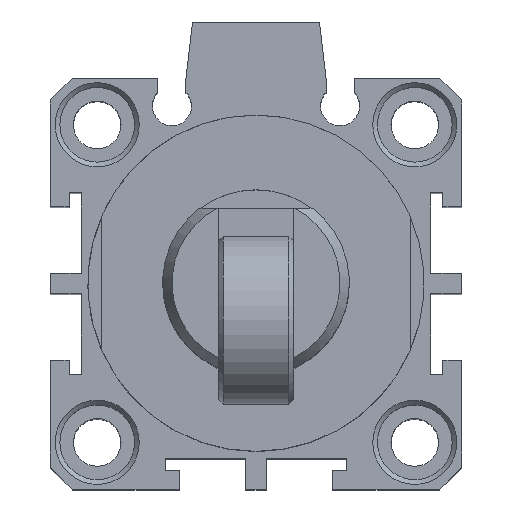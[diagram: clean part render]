
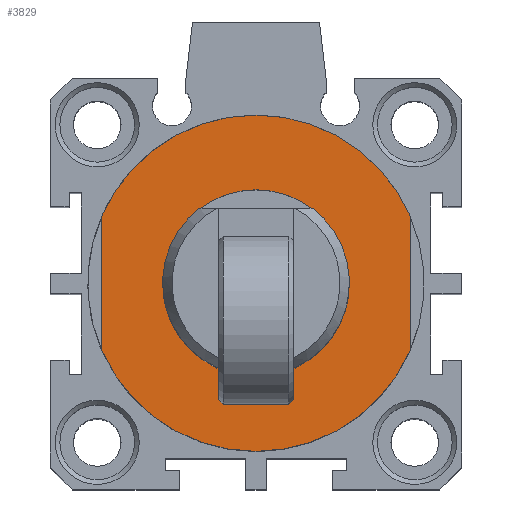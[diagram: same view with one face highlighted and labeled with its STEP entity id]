
A CAD part, top view. The second image highlights one B-rep face of the part: STEP entity #3829.
In plain terms, the highlighted planar face has unit normal (0, 0, 1).
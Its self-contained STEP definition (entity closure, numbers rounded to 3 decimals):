
#372=CARTESIAN_POINT('',(-9.726,7.88,78.0));
#373=VERTEX_POINT('',#372);
#380=CARTESIAN_POINT('',(2.274,7.88,78.0));
#381=VERTEX_POINT('',#380);
#382=CARTESIAN_POINT('',(-3.726,-0.12,78.0));
#383=DIRECTION('',(0.0,0.0,-1.0));
#384=DIRECTION('',(0.0,1.0,0.0));
#385=AXIS2_PLACEMENT_3D('',#382,#383,#384);
#386=CIRCLE('',#385,10.0);
#387=EDGE_CURVE('',#381,#373,#386,.T.);
#3375=CARTESIAN_POINT('',(12.774,-7.314,78.0));
#3376=VERTEX_POINT('',#3375);
#3383=CARTESIAN_POINT('',(-20.226,-7.314,78.0));
#3384=VERTEX_POINT('',#3383);
#3385=CARTESIAN_POINT('',(-3.726,-0.12,78.0));
#3386=DIRECTION('',(0.0,0.0,-1.0));
#3387=DIRECTION('',(0.0,1.0,0.0));
#3388=AXIS2_PLACEMENT_3D('',#3385,#3386,#3387);
#3389=CIRCLE('',#3388,18.0);
#3390=EDGE_CURVE('',#3376,#3384,#3389,.T.);
#3409=CARTESIAN_POINT('',(-20.226,7.074,78.0));
#3410=VERTEX_POINT('',#3409);
#3417=CARTESIAN_POINT('',(12.774,7.074,78.0));
#3418=VERTEX_POINT('',#3417);
#3419=CARTESIAN_POINT('',(-3.726,-0.12,78.0));
#3420=DIRECTION('',(0.0,0.0,-1.0));
#3421=DIRECTION('',(0.0,1.0,0.0));
#3422=AXIS2_PLACEMENT_3D('',#3419,#3420,#3421);
#3423=CIRCLE('',#3422,18.0);
#3424=EDGE_CURVE('',#3410,#3418,#3423,.T.);
#3798=CARTESIAN_POINT('',(-3.726,13.88,78.0));
#3799=DIRECTION('',(0.0,0.0,1.0));
#3800=DIRECTION('',(1.0,0.0,0.0));
#3801=AXIS2_PLACEMENT_3D('',#3798,#3799,#3800);
#3802=PLANE('',#3801);
#3803=CARTESIAN_POINT('',(12.774,-7.314,78.0));
#3804=DIRECTION('',(0.0,1.0,0.0));
#3805=VECTOR('',#3804,14.387);
#3806=LINE('',#3803,#3805);
#3807=EDGE_CURVE('',#3376,#3418,#3806,.T.);
#3808=ORIENTED_EDGE('',*,*,#3807,.T.);
#3809=ORIENTED_EDGE('',*,*,#3424,.F.);
#3810=CARTESIAN_POINT('',(-20.226,7.074,78.0));
#3811=DIRECTION('',(0.0,-1.0,0.0));
#3812=VECTOR('',#3811,14.387);
#3813=LINE('',#3810,#3812);
#3814=EDGE_CURVE('',#3410,#3384,#3813,.T.);
#3815=ORIENTED_EDGE('',*,*,#3814,.T.);
#3816=ORIENTED_EDGE('',*,*,#3390,.F.);
#3817=EDGE_LOOP('',(#3808,#3809,#3815,#3816));
#3818=FACE_OUTER_BOUND('',#3817,.T.);
#3819=CARTESIAN_POINT('',(-3.726,-0.12,78.0));
#3820=DIRECTION('',(0.0,0.0,-1.0));
#3821=DIRECTION('',(0.0,1.0,0.0));
#3822=AXIS2_PLACEMENT_3D('',#3819,#3820,#3821);
#3823=CIRCLE('',#3822,10.0);
#3824=EDGE_CURVE('',#373,#381,#3823,.T.);
#3825=ORIENTED_EDGE('',*,*,#3824,.T.);
#3826=ORIENTED_EDGE('',*,*,#387,.T.);
#3827=EDGE_LOOP('',(#3825,#3826));
#3828=FACE_BOUND('',#3827,.T.);
#3829=ADVANCED_FACE('',(#3818,#3828),#3802,.T.);
